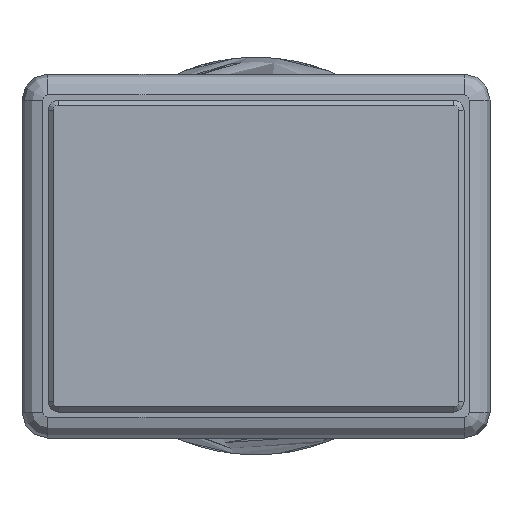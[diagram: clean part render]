
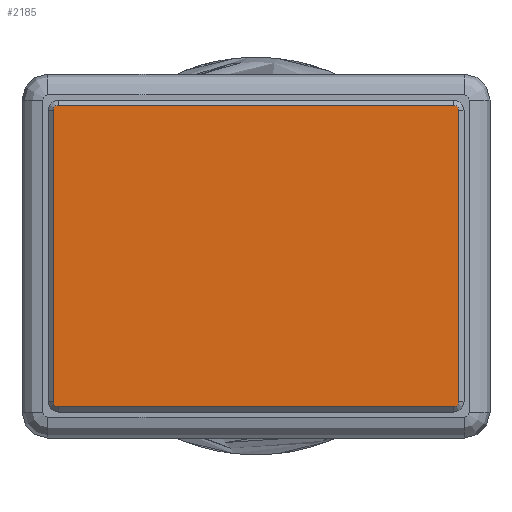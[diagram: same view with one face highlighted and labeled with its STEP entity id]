
A CAD part, front view. The second image highlights one B-rep face of the part: STEP entity #2185.
In plain terms, the highlighted planar face has unit normal (0, -1, 0).
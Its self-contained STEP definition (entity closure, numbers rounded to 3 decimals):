
#43 = DIRECTION ( 'NONE',  ( 1., 0., 0. ) ) ;
#172 = ORIENTED_EDGE ( 'NONE', *, *, #1398, .T. ) ;
#236 = CARTESIAN_POINT ( 'NONE',  ( 0., 0., 2.9 ) ) ;
#393 = AXIS2_PLACEMENT_3D ( 'NONE', #2508, #1938, #930 ) ;
#437 = PLANE ( 'NONE',  #1629 ) ;
#447 = DIRECTION ( 'NONE',  ( 0., 0., 1. ) ) ;
#535 = VERTEX_POINT ( 'NONE', #1177 ) ;
#634 = ORIENTED_EDGE ( 'NONE', *, *, #1044, .T. ) ;
#691 = CARTESIAN_POINT ( 'NONE',  ( 0., 0., 0. ) ) ;
#697 = DIRECTION ( 'NONE',  ( 0., 0., 1. ) ) ;
#701 = DIRECTION ( 'NONE',  ( 0., 0., 1. ) ) ;
#731 = EDGE_CURVE ( 'NONE', #873, #2836, #1028, .T. ) ;
#747 = LINE ( 'NONE', #236, #902 ) ;
#794 = VECTOR ( 'NONE', #1312, 1000. ) ;
#873 = VERTEX_POINT ( 'NONE', #2882 ) ;
#885 = EDGE_CURVE ( 'NONE', #2836, #1341, #2400, .T. ) ;
#902 = VECTOR ( 'NONE', #2851, 1000. ) ;
#930 = DIRECTION ( 'NONE',  ( 0., 0., 1. ) ) ;
#970 = EDGE_CURVE ( 'NONE', #2035, #1847, #1347, .T. ) ;
#1028 = CIRCLE ( 'NONE', #2173, 0.1 ) ;
#1044 = EDGE_CURVE ( 'NONE', #1861, #873, #1471, .T. ) ;
#1065 = CARTESIAN_POINT ( 'NONE',  ( -3.9, 0., -2.8 ) ) ;
#1177 = CARTESIAN_POINT ( 'NONE',  ( 3.8, 0., 2.9 ) ) ;
#1237 = DIRECTION ( 'NONE',  ( 0., -1., 0. ) ) ;
#1312 = DIRECTION ( 'NONE',  ( 0., 0., -1. ) ) ;
#1341 = VERTEX_POINT ( 'NONE', #2260 ) ;
#1347 = LINE ( 'NONE', #2939, #794 ) ;
#1398 = EDGE_CURVE ( 'NONE', #1341, #535, #1987, .T. ) ;
#1418 = CARTESIAN_POINT ( 'NONE',  ( -3.8, 0., 2.8 ) ) ;
#1420 = VERTEX_POINT ( 'NONE', #1472 ) ;
#1471 = LINE ( 'NONE', #3166, #2442 ) ;
#1472 = CARTESIAN_POINT ( 'NONE',  ( -3.8, 0., 2.9 ) ) ;
#1489 = CARTESIAN_POINT ( 'NONE',  ( 3.9, 0., 0. ) ) ;
#1498 = DIRECTION ( 'NONE',  ( 0., 0., 1. ) ) ;
#1629 = AXIS2_PLACEMENT_3D ( 'NONE', #691, #2013, #701 ) ;
#1648 = CARTESIAN_POINT ( 'NONE',  ( -3.8, 0., -2.9 ) ) ;
#1691 = DIRECTION ( 'NONE',  ( 0., -1., 0. ) ) ;
#1703 = CARTESIAN_POINT ( 'NONE',  ( 3.8, 0., -2.8 ) ) ;
#1797 = FACE_OUTER_BOUND ( 'NONE', #2686, .T. ) ;
#1847 = VERTEX_POINT ( 'NONE', #1065 ) ;
#1861 = VERTEX_POINT ( 'NONE', #1648 ) ;
#1886 = CIRCLE ( 'NONE', #3130, 0.1 ) ;
#1938 = DIRECTION ( 'NONE',  ( 0., -1., 0. ) ) ;
#1951 = ORIENTED_EDGE ( 'NONE', *, *, #885, .T. ) ;
#1986 = CIRCLE ( 'NONE', #2783, 0.1 ) ;
#1987 = CIRCLE ( 'NONE', #393, 0.1 ) ;
#2000 = ORIENTED_EDGE ( 'NONE', *, *, #970, .T. ) ;
#2013 = DIRECTION ( 'NONE',  ( 0., 1., 0. ) ) ;
#2024 = CARTESIAN_POINT ( 'NONE',  ( -3.8, 0., -2.8 ) ) ;
#2035 = VERTEX_POINT ( 'NONE', #2437 ) ;
#2146 = EDGE_CURVE ( 'NONE', #1847, #1861, #1886, .T. ) ;
#2173 = AXIS2_PLACEMENT_3D ( 'NONE', #1703, #2820, #2276 ) ;
#2185 = ADVANCED_FACE ( 'NONE', ( #1797 ), #437, .F. ) ;
#2260 = CARTESIAN_POINT ( 'NONE',  ( 3.9, 0., 2.8 ) ) ;
#2276 = DIRECTION ( 'NONE',  ( 0., 0., 1. ) ) ;
#2287 = ORIENTED_EDGE ( 'NONE', *, *, #2630, .T. ) ;
#2306 = EDGE_CURVE ( 'NONE', #535, #1420, #747, .T. ) ;
#2324 = ORIENTED_EDGE ( 'NONE', *, *, #2146, .T. ) ;
#2346 = CARTESIAN_POINT ( 'NONE',  ( 3.9, 0., -2.8 ) ) ;
#2400 = LINE ( 'NONE', #1489, #2996 ) ;
#2437 = CARTESIAN_POINT ( 'NONE',  ( -3.9, 0., 2.8 ) ) ;
#2442 = VECTOR ( 'NONE', #43, 1000. ) ;
#2508 = CARTESIAN_POINT ( 'NONE',  ( 3.8, 0., 2.8 ) ) ;
#2630 = EDGE_CURVE ( 'NONE', #1420, #2035, #1986, .T. ) ;
#2686 = EDGE_LOOP ( 'NONE', ( #2000, #2324, #634, #3267, #1951, #172, #2763, #2287 ) ) ;
#2763 = ORIENTED_EDGE ( 'NONE', *, *, #2306, .T. ) ;
#2783 = AXIS2_PLACEMENT_3D ( 'NONE', #1418, #1691, #697 ) ;
#2820 = DIRECTION ( 'NONE',  ( 0., -1., 0. ) ) ;
#2836 = VERTEX_POINT ( 'NONE', #2346 ) ;
#2851 = DIRECTION ( 'NONE',  ( -1., 0., 0. ) ) ;
#2882 = CARTESIAN_POINT ( 'NONE',  ( 3.8, 0., -2.9 ) ) ;
#2939 = CARTESIAN_POINT ( 'NONE',  ( -3.9, 0., 0. ) ) ;
#2996 = VECTOR ( 'NONE', #1498, 1000. ) ;
#3130 = AXIS2_PLACEMENT_3D ( 'NONE', #2024, #1237, #447 ) ;
#3166 = CARTESIAN_POINT ( 'NONE',  ( 0., 0., -2.9 ) ) ;
#3267 = ORIENTED_EDGE ( 'NONE', *, *, #731, .T. ) ;
